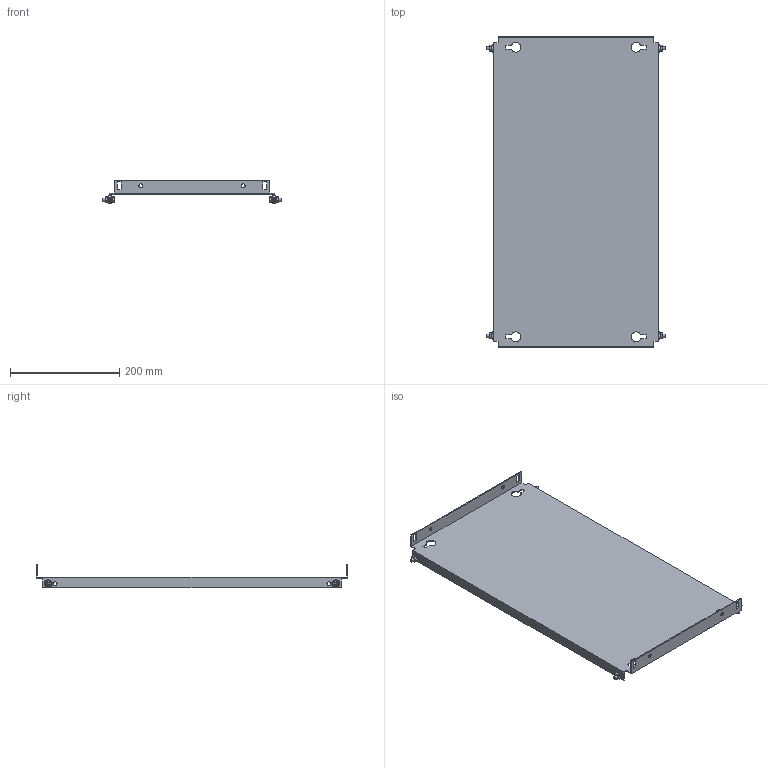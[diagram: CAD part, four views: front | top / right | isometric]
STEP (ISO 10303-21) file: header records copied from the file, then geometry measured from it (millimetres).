
FILE_DESCRIPTION(('Open CASCADE Model'),'2;1');
FILE_NAME('Open CASCADE Shape Model','2025-02-20T13:24:40',('Author'),( 'Open CASCADE'),'Open CASCADE STEP processor 7.8','Open CASCADE 7.8' ,'Unknown');
FILE_SCHEMA(('AUTOMOTIVE_DESIGN { 1 0 10303 214 1 1 1 1 }'));
Length unit declared in the file: millimetre
Products named in the file (4): Compound1; Solid1; Solid2; Solid3
Assembly tree (9 placements, depth 2):
  Compound1
    Solid1
    Solid2  x4
    Solid3  x4
Bounding box: 328 x 569 x 43 mm (x, y, z)
Volume: 407103.7 mm3; surface area: 411405.8 mm2
Topology: 9 solids, 9 shells, 306 faces, 746 edges, 462 vertices
Faces by surface type: plane 150, cone 68, bspline 48, cylinder 28, torus 12
Full cylindrical faces by diameter (mm): 5 x4, 6 x8, 7 x12
Entity records: 4844 total; most frequent: CARTESIAN_POINT 1361, ORIENTED_EDGE 742, DIRECTION 628, EDGE_CURVE 371, VERTEX_POINT 240, LINE 216, VECTOR 216, AXIS2_PLACEMENT_3D 206
